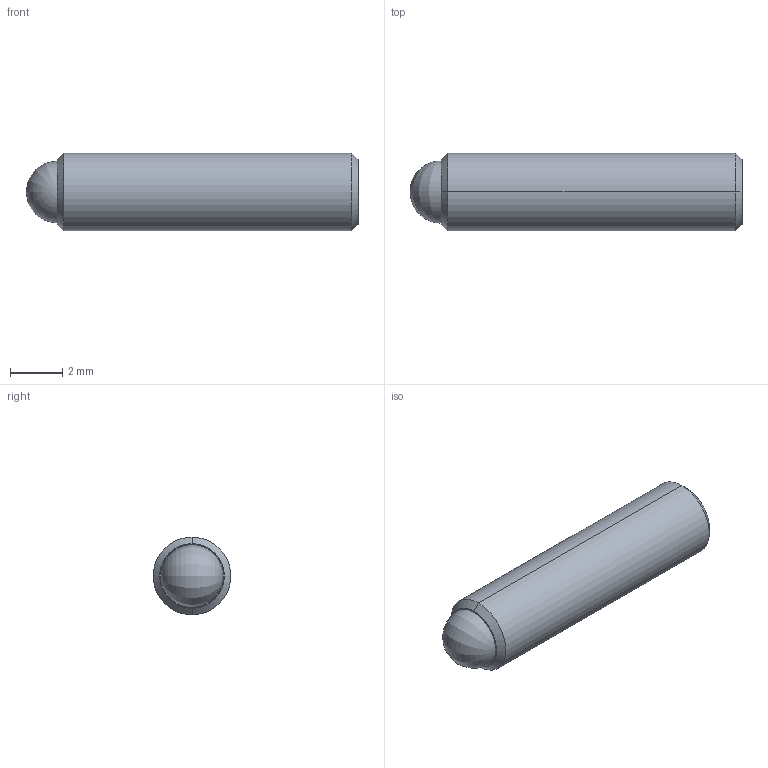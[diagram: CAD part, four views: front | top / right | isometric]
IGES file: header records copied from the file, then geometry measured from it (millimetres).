
Start section: SolidWorks IGES file using analytic representation for surfaces
Global section: file name: C:\Users\workpc\Desktop\KMA Solidworks\TS6-80 Series\TS6-80 SLDPRT\TS6-80-500.IGS; native system: SolidWorks 2013; preprocessor: SolidWorks 2013; author: workpc; date: 140728.153050; units: inch
Bounding box: 12.7 x 2.97 x 2.97 mm (x, y, z)
Surface area: 160.8 mm2 (no closed solid volume)
Topology: 0 solids, 0 shells, 20 faces, 204 edges, 200 vertices
Faces by surface type: revolution 10, bspline 10
